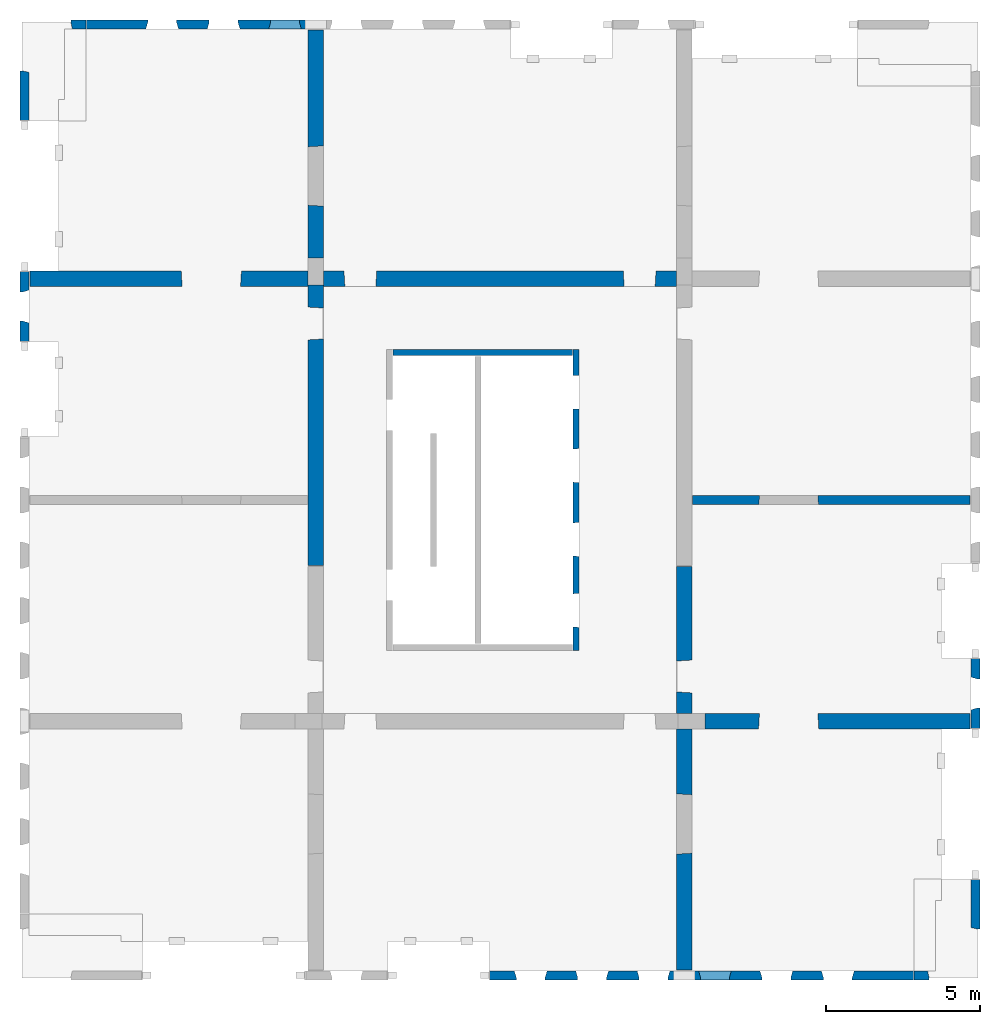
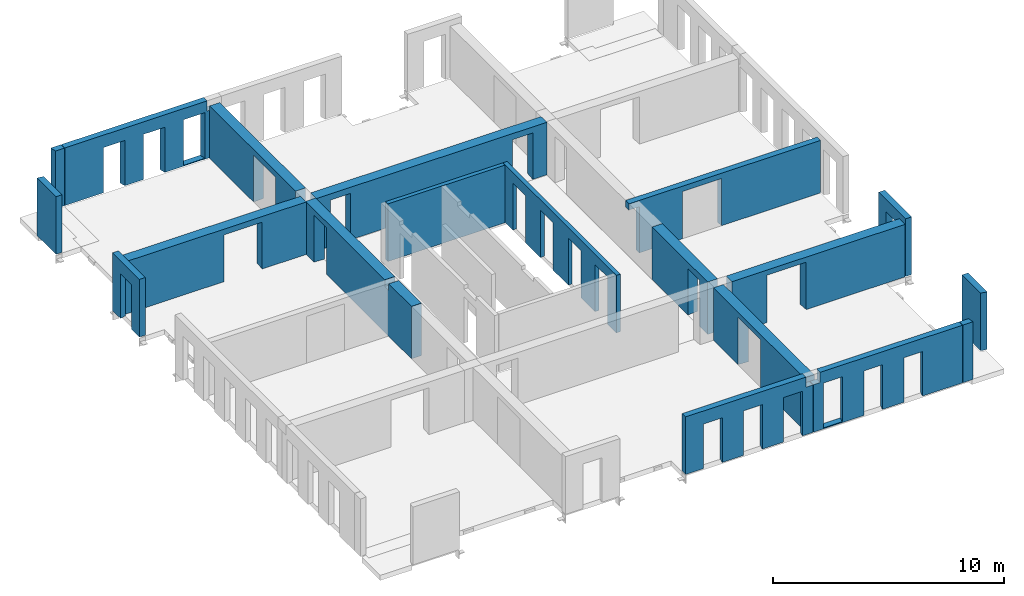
# One storey, part 3 of 4: 19 walls, 33 openings.
"""IFC2X3 building model written with IfcOpenShell, lengths in millimetres."""

import ifcopenshell
import ifcopenshell.guid

model = None  # the IFC model being written
_history = None  # IfcOwnerHistory: only IFC2X3 demands one
_inside = {}  # id of a spatial element -> (the spatial element, [elements in it])
_under = {}  # id of a project, library or spatial element -> (it, [spatial elements below it])
_declared = {}  # id of a project -> (the project, [libraries it declares])
_typed = {}  # id of a type object -> (the type object, [elements of that type])
_made_of = {}  # id of a material, layer set ... -> (it, [elements and type objects made of it])


def new_model(schema):
    """Start an empty IFC model of exactly this schema.

    Asked for "IFC4X3", IfcOpenShell would pick the latest addendum, in which some entities
    have other attributes; the version numbers below select the first issue.
    IFC2X3 requires an IfcOwnerHistory on every rooted entity: one is made here for all.
    """
    global model, _history
    if schema == "IFC4X3":
        model = ifcopenshell.file(schema_version=(4, 3, 0, 0))
    else:
        model = ifcopenshell.file(schema=schema)
    _inside.clear()
    _under.clear()
    _declared.clear()
    _typed.clear()
    _made_of.clear()
    _history = None
    if model.schema == "IFC2X3":
        org = make("IfcOrganization", Name="unknown")
        user = make(
            "IfcPersonAndOrganization",
            ThePerson=make("IfcPerson", FamilyName="unknown"),
            TheOrganization=org,
        )
        app = make(
            "IfcApplication",
            ApplicationDeveloper=org,
            Version="unknown",
            ApplicationFullName="unknown",
            ApplicationIdentifier="unknown",
        )
        _history = make(
            "IfcOwnerHistory",
            OwningUser=user,
            OwningApplication=app,
            ChangeAction="ADDED",
            CreationDate=0,
        )
    return model


def make(cls, **values):
    """One entity of the class cls with the attributes given. An attribute that is None is left unset."""
    return model.create_entity(
        cls, **{name: value for name, value in values.items() if value is not None}
    )


def entity(cls, *values):
    """Any entity or typed value of the class cls, its attributes in the order of the schema. None: left unset."""
    e = model.create_entity(cls)
    for i, value in enumerate(values):
        if value is not None:
            e[i] = value
    return e


def rooted(cls, **values):
    """An entity with a GlobalId (a new one), such as an element, a storey or a relation."""
    return make(cls, GlobalId=ifcopenshell.guid.new(), OwnerHistory=_history, **values)


def si_unit(unit_type, name, prefix=None):
    """IfcSIUnit, for example si_unit("LENGTHUNIT", "METRE", prefix="MILLI")."""
    return make("IfcSIUnit", UnitType=unit_type, Prefix=prefix, Name=name)


def converted_unit(unit_type, name, factor, base, dimensions=None, offset=None):
    """IfcConversionBasedUnit, such as the inch: factor (a typed value) times the base unit."""
    return make(
        "IfcConversionBasedUnit"
        if offset is None
        else "IfcConversionBasedUnitWithOffset",
        ConversionOffset=offset,
        Dimensions=None
        if dimensions is None
        else entity("IfcDimensionalExponents", *dimensions),
        UnitType=unit_type,
        Name=name,
        ConversionFactor=make(
            "IfcMeasureWithUnit", ValueComponent=factor, UnitComponent=base
        ),
    )


def derived_unit(unit_type, elements):
    """IfcDerivedUnit: a product of units, each with its exponent."""
    return make(
        "IfcDerivedUnit",
        Elements=[
            make("IfcDerivedUnitElement", Unit=unit, Exponent=power)
            for unit, power in elements
        ],
        UnitType=unit_type,
    )


def assignment(units):
    """IfcUnitAssignment: the units of a project."""
    return None if units is None else make("IfcUnitAssignment", Units=units)


def point(xyz):
    """IfcCartesianPoint."""
    return None if xyz is None else make("IfcCartesianPoint", Coordinates=xyz)


def direction(xyz):
    """IfcDirection."""
    return None if xyz is None else make("IfcDirection", DirectionRatios=xyz)


def frame(location, z_axis=None, x_axis=None):
    """IfcAxis2Placement3D, a coordinate frame: its origin and axes. An axis left out is left unset."""
    return make(
        "IfcAxis2Placement3D",
        Location=point(location),
        Axis=direction(z_axis),
        RefDirection=direction(x_axis),
    )


def frame_2d(location, x_axis=None):
    """IfcAxis2Placement2D, a coordinate frame in the plane: its origin and x axis."""
    return make(
        "IfcAxis2Placement2D", Location=point(location), RefDirection=direction(x_axis)
    )


def origin():
    """The frame at (0, 0, 0) with its axes left unset."""
    return frame((0.0, 0.0, 0.0))


def origin_2d_with_axis():
    """The frame at (0, 0) in the plane with the x axis (1, 0) written out."""
    return frame_2d((0.0, 0.0), x_axis=(1.0, 0.0))


def place(relative_to, where):
    """IfcLocalPlacement: puts the frame where relative to a parent placement (None: the world)."""
    return make(
        "IfcLocalPlacement", PlacementRelTo=relative_to, RelativePlacement=where
    )


def context(
    kind, dimensions, precision=None, world=None, true_north=None, identifier=None
):
    """IfcGeometricRepresentationContext, for example the 3D "Model" context."""
    return make(
        "IfcGeometricRepresentationContext",
        ContextIdentifier=identifier,
        ContextType=kind,
        CoordinateSpaceDimension=dimensions,
        Precision=precision,
        WorldCoordinateSystem=world,
        TrueNorth=true_north,
    )


def subcontext(parent, identifier, kind, view, scale=None):
    """IfcGeometricRepresentationSubContext, for example "Body" below "Model"."""
    return make(
        "IfcGeometricRepresentationSubContext",
        ContextIdentifier=identifier,
        ContextType=kind,
        ParentContext=parent,
        TargetScale=scale,
        TargetView=view,
    )


def project(units=None, contexts=None):
    """IfcProject with its units and contexts."""
    return rooted(
        "IfcProject",
        Name="project",
        RepresentationContexts=contexts,
        UnitsInContext=assignment(units),
    )


def spatial(cls, under=None, at=None, **own):
    """A site, building, storey or space (cls), placed at a placement, below another one or the project."""
    s = rooted(cls, ObjectPlacement=at, **own)
    if under is not None:
        _under.setdefault(under.id(), (under, []))[1].append(s)
    return s


def profile(cls, at=None, kind="AREA", **sizes):
    """A parametric profile (cls). Its sizes go by their IFC names, for example OverallWidth=200.0."""
    return make(cls, ProfileType=kind, Position=at, **sizes)


def rectangle(**sizes):
    """IfcRectangleProfileDef."""
    return profile("IfcRectangleProfileDef", **sizes)


def extrude(swept, where, along, depth):
    """IfcExtrudedAreaSolid: the profile swept, set in the frame where, extruded along a direction by depth."""
    return make(
        "IfcExtrudedAreaSolid",
        SweptArea=swept,
        Position=where,
        ExtrudedDirection=direction(along),
        Depth=depth,
    )


def faces_of(points, faces, orient=None, outer=None):
    """IfcFace entities. A face is a list of loops; a loop is a list of indices into points, from 0.

    orient and outer hold one flag for each loop. By default every Orientation is true, the
    first loop of a face is its IfcFaceOuterBound and the others are IfcFaceBound.
    """
    made = []
    for i, loops in enumerate(faces):
        bounds = []
        for j, loop in enumerate(loops):
            is_outer = j == 0 if outer is None else outer[i][j]
            bounds.append(
                make(
                    "IfcFaceOuterBound" if is_outer else "IfcFaceBound",
                    Bound=make("IfcPolyLoop", Polygon=[points[k] for k in loop]),
                    Orientation=True if orient is None else orient[i][j],
                )
            )
        made.append(make("IfcFace", Bounds=bounds))
    return made


def faceted_brep(points, faces, orient=None, outer=None, voids=None):
    """IfcFacetedBrep: a solid bounded by flat faces; with voids (closed shells), ...WithVoids."""
    shared = [point(p) for p in points]
    hull = make("IfcClosedShell", CfsFaces=faces_of(shared, faces, orient, outer))
    if voids is None:
        return make("IfcFacetedBrep", Outer=hull)
    return make(
        "IfcFacetedBrepWithVoids",
        Outer=hull,
        Voids=[
            make(cls, CfsFaces=faces_of(shared, fs, o, b)) for cls, fs, o, b in voids
        ],
    )


def shape(context_of_items, identifier, shape_type, items):
    """IfcShapeRepresentation: the items that make up one representation, for example the "Body"."""
    return make(
        "IfcShapeRepresentation",
        ContextOfItems=context_of_items,
        RepresentationIdentifier=identifier,
        RepresentationType=shape_type,
        Items=items,
    )


def material(Name=None, Category=None):
    """IfcMaterial."""
    return make("IfcMaterial", Name=Name, Category=Category)


def layer(
    of_material, thickness, ventilated=None, Name=None, Category=None, Priority=None
):
    """IfcMaterialLayer: one layer of a wall or slab, of a material (None: an air gap)."""
    return make(
        "IfcMaterialLayer",
        Material=of_material,
        LayerThickness=thickness,
        IsVentilated=ventilated,
        Name=Name,
        Category=Category,
        Priority=Priority,
    )


def layer_set(layers, Name=None):
    """IfcMaterialLayerSet."""
    return make("IfcMaterialLayerSet", MaterialLayers=layers, LayerSetName=Name)


def layer_usage(for_layer_set, set_direction, sense, offset, extent=None):
    """IfcMaterialLayerSetUsage: how a layer set lies in its element."""
    return make(
        "IfcMaterialLayerSetUsage",
        ForLayerSet=for_layer_set,
        LayerSetDirection=set_direction,
        DirectionSense=sense,
        OffsetFromReferenceLine=offset,
        ReferenceExtent=extent,
    )


def made_of(thing, what):
    """Note that an element or type object is made of a material, layer set ...; save() writes the relation."""
    if what is not None:
        _made_of.setdefault(what.id(), (what, []))[1].append(thing)
    return thing


def type_object(cls, material=None, **own):
    """A type object (cls), such as IfcWallType, which elements share."""
    return made_of(rooted(cls, **own), material)


def element(
    cls,
    number,
    at=None,
    inside=None,
    cuts=None,
    type_object=None,
    material=None,
    context=None,
    identifier="Body",
    shape_type=None,
    held_by="IfcProductDefinitionShape",
    body=None,
    shapes=None,
    **own,
):
    """One element of the class cls, such as IfcWall. Its Tag is "e" and its number.

    at: its placement. inside: the storey or other place that contains it. cuts: it is an
    opening in that element (IfcRelVoidsElement). A single representation is given by context,
    identifier, shape_type and body (its items); several are given by shapes. held_by: the class
    of the entity that holds the representations. save() writes the other relations.
    """
    e = rooted(cls, Tag="e%d" % number, ObjectPlacement=at, **own)
    if body is not None:
        shapes = [shape(context, identifier, shape_type, body)]
    if shapes is not None:
        e.Representation = make(held_by, Representations=shapes)
    if inside is not None:
        _inside.setdefault(inside.id(), (inside, []))[1].append(e)
    if cuts is not None:
        rooted(
            "IfcRelVoidsElement", RelatingBuildingElement=cuts, RelatedOpeningElement=e
        )
    if type_object is not None:
        _typed.setdefault(type_object.id(), (type_object, []))[1].append(e)
    return made_of(e, material)


def aggregate(whole, parts):
    """IfcRelAggregates: a whole, such as a stair, and the parts it consists of."""
    return rooted("IfcRelAggregates", RelatingObject=whole, RelatedObjects=parts)


def save(model, path):
    """Write the relations noted so far, then the file.

    IfcRelAggregates (storeys below a building ...), IfcRelContainedInSpatialStructure (elements
    in a storey), IfcRelDefinesByType, IfcRelAssociatesMaterial and IfcRelDeclares: one each for
    every whole, place, type object, material and project.
    """
    for whole, parts in _under.values():
        aggregate(whole, parts)
    for where, things in _inside.values():
        rooted(
            "IfcRelContainedInSpatialStructure",
            RelatedElements=things,
            RelatingStructure=where,
        )
    for kind, things in _typed.values():
        rooted("IfcRelDefinesByType", RelatedObjects=things, RelatingType=kind)
    for what, things in _made_of.values():
        rooted("IfcRelAssociatesMaterial", RelatedObjects=things, RelatingMaterial=what)
    for by, libraries in _declared.values():
        rooted("IfcRelDeclares", RelatingContext=by, RelatedDefinitions=libraries)
    model.write(path)


model = new_model("IFC2X3")

# Units and contexts
model_context = context("Model", 3, precision=0.01, world=origin(), true_north=direction((6.12303176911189e-17, 1.0)))
body_context = subcontext(model_context, "Body", "Model", "MODEL_VIEW")
ifc_project = project(units=[si_unit("LENGTHUNIT", "METRE", prefix="MILLI"), si_unit("AREAUNIT", "SQUARE_METRE"), si_unit("VOLUMEUNIT", "CUBIC_METRE"), converted_unit("PLANEANGLEUNIT", "DEGREE", entity("IfcRatioMeasure", 0.0174532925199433), si_unit("PLANEANGLEUNIT", "RADIAN"), dimensions=[0, 0, 0, 0, 0, 0, 0]), si_unit("MASSUNIT", "GRAM", prefix="KILO"), derived_unit("MASSDENSITYUNIT", [(si_unit("MASSUNIT", "GRAM", prefix="KILO"), 1), (si_unit("LENGTHUNIT", "METRE"), -3)]), si_unit("TIMEUNIT", "SECOND"), si_unit("FREQUENCYUNIT", "HERTZ"), si_unit("THERMODYNAMICTEMPERATUREUNIT", "DEGREE_CELSIUS"), derived_unit("THERMALTRANSMITTANCEUNIT", [(si_unit("MASSUNIT", "GRAM", prefix="KILO"), 1), (si_unit("THERMODYNAMICTEMPERATUREUNIT", "KELVIN"), -1), (si_unit("TIMEUNIT", "SECOND"), -3)]), derived_unit("VOLUMETRICFLOWRATEUNIT", [(si_unit("LENGTHUNIT", "METRE"), 3), (si_unit("TIMEUNIT", "SECOND"), -1)]), si_unit("ELECTRICCURRENTUNIT", "AMPERE"), si_unit("ELECTRICVOLTAGEUNIT", "VOLT"), si_unit("POWERUNIT", "WATT"), si_unit("FORCEUNIT", "NEWTON", prefix="KILO"), si_unit("ILLUMINANCEUNIT", "LUX"), si_unit("LUMINOUSFLUXUNIT", "LUMEN"), si_unit("LUMINOUSINTENSITYUNIT", "CANDELA"), derived_unit("USERDEFINED", [(si_unit("MASSUNIT", "GRAM", prefix="KILO"), -1), (si_unit("LENGTHUNIT", "METRE"), -2), (si_unit("TIMEUNIT", "SECOND"), 3), (si_unit("LUMINOUSFLUXUNIT", "LUMEN"), 1)]), derived_unit("LINEARVELOCITYUNIT", [(si_unit("LENGTHUNIT", "METRE"), 1), (si_unit("TIMEUNIT", "SECOND"), -1)]), si_unit("PRESSUREUNIT", "PASCAL"), derived_unit("USERDEFINED", [(si_unit("LENGTHUNIT", "METRE"), -2), (si_unit("MASSUNIT", "GRAM", prefix="KILO"), 1), (si_unit("TIMEUNIT", "SECOND"), -2)])], contexts=[model_context])

# Site, building, storey
site_placement = place(None, origin())
site = spatial("IfcSite", under=ifc_project, at=site_placement, Name="Default", CompositionType="ELEMENT")
building_placement = place(site_placement, origin())
building = spatial("IfcBuilding", under=site, at=building_placement, Name="niet gebruiken", CompositionType="ELEMENT")
storey_placement = place(building_placement, frame((0.0, 0.0, 60840.0)))
storey = spatial("IfcBuildingStorey", under=building, at=storey_placement, Name="19 negentiende verdieping", CompositionType="ELEMENT", Elevation=60840.0)

# Wall, openings
ifc_material = material(Name="NLRS_f2_beton prefab")
ifc_layer_1 = layer(ifc_material, 200.0)
ifc_layer_set_1 = layer_set([ifc_layer_1], Name="Basic Wall:NLRS_22.21_WA_beton prefab d=200_gen")
ifc_layer_usage_1 = layer_usage(ifc_layer_set_1, "AXIS2", "NEGATIVE", 100.0)
wall_type_1 = type_object("IfcWallType", Name="Basic Wall:NLRS_22.21_WA_beton prefab d=200_gen", PredefinedType="STANDARD", material=ifc_layer_set_1)
wall_1_placement = place(storey_placement, frame((144230.0, 22400.0, -50.0), z_axis=(0.0, 0.0, 1.0), x_axis=(0.0, -1.0, 0.0)))
wall_1 = element("IfcWallStandardCase", 1, at=wall_1_placement, inside=storey, type_object=wall_type_1, material=ifc_layer_usage_1, Name="Basic Wall:NLRS_22.21_WA_beton prefab d=200_gen", ObjectType="Basic Wall:NLRS_22.21_WA_beton prefab d=200_gen", context=body_context, shape_type="SweptSolid", body=[
    extrude(rectangle(XDim=9800.0, YDim=199.999999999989, at=frame_2d((4900.0, -3.69482222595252e-13), x_axis=(-1.0, 0.0))), origin(), (0.0, 0.0, 1.0), 3040.0),
])
opening_1_placement = place(wall_1_placement, frame((9047.0, -100.0, 0.0)))
element("IfcOpeningElement", 2, at=opening_1_placement, cuts=wall_1, Name="Basic Wall:NLRS_22.21_WA_beton prefab d=200_gen", ObjectType="Opening", context=body_context, shape_type="Brep", body=[
    faceted_brep([(-1104.0, 200.0, 2502.0), (-1104.0, 200.0, 0.0), (-1092.0, 0.0, 0.0), (-1092.0, 0.0, 2490.0), (0.0, 200.0, 0.0), (-12.0, 0.0, 0.0), (-12.0, 0.0, 2490.0), (0.0, 200.0, 2502.0)], [[[0, 1, 2, 3]], [[1, 4, 5, 2]], [[6, 3, 2, 5]], [[7, 4, 1, 0]], [[7, 0, 3, 6]], [[4, 7, 6, 5]]]),
])
opening_2_placement = place(wall_1_placement, frame((6737.0, -100.0, 0.0)))
element("IfcOpeningElement", 3, at=opening_2_placement, cuts=wall_1, Name="Basic Wall:NLRS_22.21_WA_beton prefab d=200_gen", ObjectType="Opening", context=body_context, shape_type="Brep", body=[
    faceted_brep([(-1104.0, 200.0, 2502.0), (-1104.0, 200.0, 0.0), (-1092.0, 0.0, 0.0), (-1092.0, 0.0, 2490.0), (0.0, 200.0, 0.0), (-12.0, 0.0, 0.0), (-12.0, 0.0, 2490.0), (0.0, 200.0, 2502.0)], [[[0, 1, 2, 3]], [[1, 4, 5, 2]], [[6, 3, 2, 5]], [[7, 4, 1, 0]], [[7, 0, 3, 6]], [[4, 7, 6, 5]]]),
])
opening_3_placement = place(wall_1_placement, frame((4332.0, -100.0, 0.0)))
element("IfcOpeningElement", 4, at=opening_3_placement, cuts=wall_1, Name="Basic Wall:NLRS_22.21_WA_beton prefab d=200_gen", ObjectType="Opening", context=body_context, shape_type="Brep", body=[
    faceted_brep([(-1104.0, 200.0, 2502.0), (-1104.0, 200.0, 0.0), (-1092.0, 0.0, 0.0), (-1092.0, 0.0, 2490.0), (0.0, 200.0, 0.0), (-12.0, 0.0, 0.0), (-12.0, 0.0, 2490.0), (0.0, 200.0, 2502.0)], [[[0, 1, 2, 3]], [[1, 4, 5, 2]], [[6, 3, 2, 5]], [[7, 4, 1, 0]], [[7, 0, 3, 6]], [[4, 7, 6, 5]]]),
])
opening_4_placement = place(wall_1_placement, frame((1942.0, -100.0, 0.0)))
element("IfcOpeningElement", 5, at=opening_4_placement, cuts=wall_1, Name="Basic Wall:NLRS_22.21_WA_beton prefab d=200_gen", ObjectType="Opening", context=body_context, shape_type="Brep", body=[
    faceted_brep([(-1104.0, 200.0, 2502.0), (-1104.0, 200.0, 0.0), (-1092.0, 0.0, 0.0), (-1092.0, 0.0, 2490.0), (0.0, 200.0, 0.0), (-12.0, 0.0, 0.0), (-12.0, 0.0, 2490.0), (0.0, 200.0, 2502.0)], [[[0, 1, 2, 3]], [[1, 4, 5, 2]], [[6, 3, 2, 5]], [[7, 4, 1, 0]], [[7, 0, 3, 6]], [[4, 7, 6, 5]]]),
])

# Wall
ifc_layer_usage_2 = layer_usage(ifc_layer_set_1, "AXIS2", "NEGATIVE", 100.0)
wall_2_placement = place(storey_placement, frame((138270.0, 22300.0, -50.0)))
element("IfcWallStandardCase", 6, at=wall_2_placement, inside=storey, type_object=wall_type_1, material=ifc_layer_usage_2, Name="Basic Wall:NLRS_22.21_WA_beton prefab d=200_gen", ObjectType="Basic Wall:NLRS_22.21_WA_beton prefab d=200_gen", context=body_context, shape_type="SweptSolid", body=[
    extrude(rectangle(XDim=5839.99999999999, YDim=199.999999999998, at=frame_2d((2919.99999999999, -7.60280727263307e-13), x_axis=(-1.0, 0.0))), origin(), (0.0, 0.0, 1.0), 3040.0),
])

# Wall, openings
ifc_layer_2 = layer(ifc_material, 300.0)
ifc_layer_set_2 = layer_set([ifc_layer_2], Name="Basic Wall:NLRS_22.21_WA_beton prefab d=300_gen")
ifc_layer_usage_3 = layer_usage(ifc_layer_set_2, "AXIS2", "NEGATIVE", 150.0)
wall_type_2 = type_object("IfcWallType", Name="Basic Wall:NLRS_22.21_WA_beton prefab d=300_gen", PredefinedType="STANDARD", material=ifc_layer_set_2)
wall_3_placement = place(storey_placement, frame((157060.0, 17500.0, -70.0), z_axis=(0.0, 0.0, 1.0), x_axis=(-1.0, 0.0, 0.0)))
wall_3 = element("IfcWallStandardCase", 7, at=wall_3_placement, inside=storey, type_object=wall_type_2, material=ifc_layer_usage_3, Name="Basic Wall:NLRS_22.21_WA_beton prefab d=300_gen", ObjectType="Basic Wall:NLRS_22.21_WA_beton prefab d=300_gen", context=body_context, shape_type="SweptSolid", body=[
    extrude(rectangle(XDim=9559.9999999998, YDim=300.000000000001, at=frame_2d((4779.9999999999, -7.53175299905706e-13), x_axis=(-1.0, 0.0))), origin(), (0.0, 0.0, 1.0), 2769.99999999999),
])
opening_5_placement = place(wall_3_placement, frame((6878.0, 150.0, 0.0)))
element("IfcOpeningElement", 8, at=opening_5_placement, cuts=wall_3, Name="Basic Wall:NLRS_22.21_WA_beton prefab d=300_gen", ObjectType="Opening", context=body_context, shape_type="Brep", body=[
    faceted_brep([(-18.0, -300.0, 2470.0), (-1918.0, -300.0, 2470.0), (-1918.0, -300.0, 0.0), (-18.0, -300.0, 0.0), (0.0, 0.0, 2488.0), (0.0, 0.0, 0.0), (-1936.0, 0.0, 0.0), (-1936.0, 0.0, 2488.0)], [[[0, 1, 2, 3]], [[4, 5, 6, 7]], [[4, 7, 1, 0]], [[7, 6, 2, 1]], [[6, 5, 3, 2]], [[5, 4, 0, 3]]]),
])
opening_6_placement = place(wall_3_placement, origin())
element("IfcOpeningElement", 9, at=opening_6_placement, cuts=wall_3, Name="Basic Wall:NLRS_22.21_WA_beton prefab d=300_gen", ObjectType="Opening", context=body_context, shape_type="SweptSolid", body=[
    extrude(rectangle(XDim=2440.0, YDim=520.000000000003, at=frame_2d((8.64019966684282e-12, 0.0), x_axis=(0.0, 1.0))), frame((9300.0, 150.0, 1220.0), z_axis=(0.0, -1.0, 0.0), x_axis=(1.0, 0.0, 0.0)), (0.0, 0.0, 1.0), 300.0),
])

ifc_layer_3 = layer(ifc_material, 500.0)
ifc_layer_set_3 = layer_set([ifc_layer_3], Name="Basic Wall:NLRS_22.21_WA_beton prefab d=500_gen")
ifc_layer_usage_4 = layer_usage(ifc_layer_set_3, "AXIS2", "NEGATIVE", 250.0)
wall_type_3 = type_object("IfcWallType", Name="Basic Wall:NLRS_22.21_WA_beton prefab d=500_gen", PredefinedType="STANDARD", material=ifc_layer_set_3)
wall_4_placement = place(storey_placement, frame((136000.003540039, 24700.0, -70.0)))
wall_4 = element("IfcWallStandardCase", 10, at=wall_4_placement, inside=storey, type_object=wall_type_3, material=ifc_layer_usage_4, Name="Basic Wall:NLRS_22.21_WA_beton prefab d=500_gen", ObjectType="Basic Wall:NLRS_22.21_WA_beton prefab d=500_gen", context=body_context, shape_type="SweptSolid", body=[
    extrude(rectangle(XDim=11499.9964599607, YDim=499.999999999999, at=frame_2d((5749.99822998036, 0.0), x_axis=(-1.0, 0.0))), origin(), (0.0, 0.0, 1.0), 2770.00000000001),
])
opening_7_placement = place(wall_4_placement, frame((669.996459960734, -250.0, 0.0)))
element("IfcOpeningElement", 11, at=opening_7_placement, cuts=wall_4, Name="Basic Wall:NLRS_22.21_WA_beton prefab d=500_gen", ObjectType="Opening", context=body_context, shape_type="Brep", body=[
    faceted_brep([(1066.0, 500.0, 2478.0), (1036.0, 0.0, 2448.0), (1036.0, 0.0, 0.0), (1066.0, 500.0, 0.0), (30.0, 0.0, 0.0), (0.0, 500.0, 0.0), (30.0, 0.0, 2448.0), (0.0, 500.0, 2478.0)], [[[0, 1, 2, 3]], [[3, 2, 4, 5]], [[6, 4, 2, 1]], [[7, 0, 3, 5]], [[7, 6, 1, 0]], [[5, 4, 6, 7]]]),
])
opening_8_placement = place(wall_4_placement, frame((9763.99645996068, -250.0, 0.0)))
element("IfcOpeningElement", 12, at=opening_8_placement, cuts=wall_4, Name="Basic Wall:NLRS_22.21_WA_beton prefab d=500_gen", ObjectType="Opening", context=body_context, shape_type="Brep", body=[
    faceted_brep([(30.0, 0.0, 2448.0), (30.0, 0.0, 0.0), (1036.0, 0.0, 0.0), (1036.0, 0.0, 2448.0), (0.0, 500.0, 2478.0), (1066.0, 500.0, 2478.0), (1066.0, 500.0, 0.0), (0.0, 500.0, 0.0)], [[[0, 1, 2, 3]], [[4, 5, 6, 7]], [[4, 0, 3, 5]], [[5, 3, 2, 6]], [[6, 2, 1, 7]], [[7, 1, 0, 4]]]),
])

# Wall, opening
ifc_layer_usage_5 = layer_usage(ifc_layer_set_3, "AXIS2", "NEGATIVE", 250.0)
wall_5_placement = place(storey_placement, frame((147750.0, 10050.0, -70.0), z_axis=(0.0, 0.0, 1.0), x_axis=(0.0, -1.0, 0.0)))
wall_5 = element("IfcWallStandardCase", 13, at=wall_5_placement, inside=storey, type_object=wall_type_3, material=ifc_layer_usage_5, Name="Basic Wall:NLRS_22.21_WA_beton prefab d=500_gen", ObjectType="Basic Wall:NLRS_22.21_WA_beton prefab d=500_gen", context=body_context, shape_type="SweptSolid", body=[
    extrude(rectangle(XDim=7859.99999999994, YDim=499.99999999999, at=frame_2d((3929.99999999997, 8.5265128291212e-14), x_axis=(-1.0, 0.0))), origin(), (0.0, 0.0, 1.0), 2769.99999999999),
])
opening_9_placement = place(wall_5_placement, frame((4080.0, -250.0, 0.0)))
element("IfcOpeningElement", 14, at=opening_9_placement, cuts=wall_5, Name="Basic Wall:NLRS_22.21_WA_beton prefab d=500_gen", ObjectType="Opening", context=body_context, shape_type="Brep", body=[
    faceted_brep([(-30.0, 500.0, 2470.0), (-30.0, 500.0, 0.0), (-1930.0, 500.0, 0.0), (-1930.0, 500.0, 2470.0), (0.0, 0.0, 2500.0), (-1960.0, 0.0, 2500.0), (-1960.0, 0.0, 0.0), (0.0, 0.0, 0.0)], [[[0, 1, 2, 3]], [[4, 5, 6, 7]], [[4, 0, 3, 5]], [[5, 3, 2, 6]], [[6, 2, 1, 7]], [[7, 1, 0, 4]]]),
])

ifc_layer_usage_6 = layer_usage(ifc_layer_set_3, "AXIS2", "NEGATIVE", 250.0)
wall_6_placement = place(storey_placement, frame((135500.003540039, 24700.0, -70.0), z_axis=(0.0, 0.0, 1.0), x_axis=(-1.0, 0.0, 0.0)))
wall_6 = element("IfcWallStandardCase", 15, at=wall_6_placement, inside=storey, type_object=wall_type_3, material=ifc_layer_usage_6, Name="Basic Wall:NLRS_22.21_WA_beton prefab d=500_gen", ObjectType="Basic Wall:NLRS_22.21_WA_beton prefab d=500_gen", context=body_context, shape_type="SweptSolid", body=[
    extrude(rectangle(XDim=9060.00354003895, YDim=499.999999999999, at=frame_2d((4530.00177001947, 7.24753590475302e-13), x_axis=(-1.0, 0.0))), origin(), (0.0, 0.0, 1.0), 2769.99999999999),
])
opening_10_placement = place(wall_6_placement, frame((4130.00354003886, 250.0, 0.0)))
element("IfcOpeningElement", 16, at=opening_10_placement, cuts=wall_6, Name="Basic Wall:NLRS_22.21_WA_beton prefab d=500_gen", ObjectType="Opening", context=body_context, shape_type="Brep", body=[
    faceted_brep([(-1930.0, 0.0, 2470.0), (-30.0, 0.0, 2470.0), (-30.0, 0.0, 0.0), (-1930.0, 0.0, 0.0), (-1960.0, -500.0, 2500.0), (-1960.0, -500.0, 0.0), (0.0, -500.0, 0.0), (0.0, -500.0, 2500.0)], [[[0, 1, 2, 3]], [[4, 5, 6, 7]], [[4, 7, 1, 0]], [[7, 6, 2, 1]], [[6, 5, 3, 2]], [[5, 4, 0, 3]]]),
])

ifc_layer_usage_7 = layer_usage(ifc_layer_set_3, "AXIS2", "NEGATIVE", 250.0)
wall_7_placement = place(storey_placement, frame((148430.0, 10300.0, -70.0)))
wall_7 = element("IfcWallStandardCase", 17, at=wall_7_placement, inside=storey, type_object=wall_type_3, material=ifc_layer_usage_7, Name="Basic Wall:NLRS_22.21_WA_beton prefab d=500_gen", ObjectType="Basic Wall:NLRS_22.21_WA_beton prefab d=500_gen", context=body_context, shape_type="SweptSolid", body=[
    extrude(rectangle(XDim=8630.00000000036, YDim=499.999999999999, at=frame_2d((4315.00000000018, 2.70006239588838e-13), x_axis=(-1.0, 0.0))), origin(), (0.0, 0.0, 1.0), 2769.99999999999),
])
opening_11_placement = place(wall_7_placement, frame((1740.0, -250.0, 0.0)))
element("IfcOpeningElement", 18, at=opening_11_placement, cuts=wall_7, Name="Basic Wall:NLRS_22.21_WA_beton prefab d=500_gen", ObjectType="Opening", context=body_context, shape_type="Brep", body=[
    faceted_brep([(30.0, 500.0, 2470.0), (1930.0, 500.0, 2470.0), (1930.0, 500.0, 0.0), (30.0, 500.0, 0.0), (0.0, 0.0, 2500.0), (0.0, 0.0, 0.0), (1960.0, 0.0, 0.0), (1960.0, 0.0, 2500.0)], [[[0, 1, 2, 3]], [[4, 5, 6, 7]], [[4, 7, 1, 0]], [[7, 6, 2, 1]], [[6, 5, 3, 2]], [[5, 4, 0, 3]]]),
])

ifc_layer_usage_8 = layer_usage(ifc_layer_set_3, "AXIS2", "NEGATIVE", 250.0)
wall_8_placement = place(storey_placement, frame((135750.0, 25380.0, -70.0), z_axis=(0.0, 0.0, 1.0), x_axis=(0.0, 1.0, 0.0)))
wall_8 = element("IfcWallStandardCase", 19, at=wall_8_placement, inside=storey, type_object=wall_type_3, material=ifc_layer_usage_8, Name="Basic Wall:NLRS_22.21_WA_beton prefab d=500_gen", ObjectType="Basic Wall:NLRS_22.21_WA_beton prefab d=500_gen", context=body_context, shape_type="SweptSolid", body=[
    extrude(rectangle(XDim=7429.99999999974, YDim=499.99999999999, at=frame_2d((3714.99999999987, -3.65218966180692e-12), x_axis=(-1.0, 0.0))), origin(), (0.0, 0.0, 1.0), 2769.99999999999),
])
opening_12_placement = place(wall_8_placement, frame((1690.0, 250.0, 0.0)))
element("IfcOpeningElement", 20, at=opening_12_placement, cuts=wall_8, Name="Basic Wall:NLRS_22.21_WA_beton prefab d=500_gen", ObjectType="Opening", context=body_context, shape_type="Brep", body=[
    faceted_brep([(1930.0, 0.0, 2470.0), (1930.0, 0.0, 0.0), (30.0, 0.0, 0.0), (30.0, 0.0, 2470.0), (1960.0, -500.0, 2500.0), (0.0, -500.0, 2500.0), (0.0, -500.0, 0.0), (1960.0, -500.0, 0.0)], [[[0, 1, 2, 3]], [[4, 5, 6, 7]], [[4, 0, 3, 5]], [[5, 3, 2, 6]], [[6, 2, 1, 7]], [[7, 1, 0, 4]]]),
])

ifc_layer_usage_9 = layer_usage(ifc_layer_set_3, "AXIS2", "NEGATIVE", 250.0)
wall_9_placement = place(storey_placement, frame((147750.0, 15340.0, -70.0), z_axis=(0.0, 0.0, 1.0), x_axis=(0.0, -1.0, 0.0)))
wall_9 = element("IfcWallStandardCase", 21, at=wall_9_placement, inside=storey, type_object=wall_type_3, material=ifc_layer_usage_9, Name="Basic Wall:NLRS_22.21_WA_beton prefab d=500_gen", ObjectType="Basic Wall:NLRS_22.21_WA_beton prefab d=500_gen", context=body_context, shape_type="SweptSolid", body=[
    extrude(rectangle(XDim=4789.99999999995, YDim=499.99999999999, at=frame_2d((2394.99999999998, 0.0), x_axis=(-1.0, 0.0))), origin(), (0.0, 0.0, 1.0), 2770.00000000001),
])
opening_13_placement = place(wall_9_placement, frame((4120.0, -250.0, 0.0)))
element("IfcOpeningElement", 22, at=opening_13_placement, cuts=wall_9, Name="Basic Wall:NLRS_22.21_WA_beton prefab d=500_gen", ObjectType="Opening", context=body_context, shape_type="Brep", body=[
    faceted_brep([(-1066.0, 500.0, 2478.0), (-1066.0, 500.0, 0.0), (-1036.0, 0.0, 0.0), (-1036.0, 0.0, 2448.0), (0.0, 500.0, 0.0), (-30.0, 0.0, 0.0), (-30.0, 0.0, 2448.0), (0.0, 500.0, 2478.0)], [[[0, 1, 2, 3]], [[1, 4, 5, 2]], [[6, 3, 2, 5]], [[7, 4, 1, 0]], [[7, 0, 3, 6]], [[4, 7, 6, 5]]]),
])

# Wall, openings
ifc_layer_usage_10 = layer_usage(ifc_layer_set_3, "AXIS2", "NEGATIVE", 250.0)
wall_10_placement = place(storey_placement, frame((135750.0, 24500.0, -70.0), z_axis=(0.0, 0.0, 1.0), x_axis=(0.0, -1.0, 0.0)))
wall_10 = element("IfcWallStandardCase", 23, at=wall_10_placement, inside=storey, type_object=wall_type_3, material=ifc_layer_usage_10, Name="Basic Wall:NLRS_22.21_WA_beton prefab d=500_gen", ObjectType="Basic Wall:NLRS_22.21_WA_beton prefab d=500_gen", context=body_context, shape_type="SweptSolid", body=[
    extrude(rectangle(XDim=9140.0, YDim=499.99999999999, at=frame_2d((4570.0, 5.6843418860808e-14), x_axis=(-1.0, 0.0))), origin(), (0.0, 0.0, 1.0), 2770.00000000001),
])
opening_14_placement = place(wall_10_placement, frame((1786.0, -250.0, 0.0)))
element("IfcOpeningElement", 24, at=opening_14_placement, cuts=wall_10, Name="Basic Wall:NLRS_22.21_WA_beton prefab d=500_gen", ObjectType="Opening", context=body_context, shape_type="Brep", body=[
    faceted_brep([(-1066.0, 0.0, 2478.0), (-1036.0, 500.0, 2448.0), (-1036.0, 500.0, 0.0), (-1066.0, 0.0, 0.0), (-30.0, 500.0, 0.0), (0.0, 0.0, 0.0), (-30.0, 500.0, 2448.0), (0.0, 0.0, 2478.0)], [[[0, 1, 2, 3]], [[3, 2, 4, 5]], [[6, 4, 2, 1]], [[7, 0, 3, 5]], [[7, 6, 1, 0]], [[5, 4, 6, 7]]]),
])
opening_15_placement = place(wall_10_placement, origin())
element("IfcOpeningElement", 25, at=opening_15_placement, cuts=wall_10, Name="Basic Wall:NLRS_22.21_WA_beton prefab d=500_gen", ObjectType="Opening", context=body_context, shape_type="SweptSolid", body=[
    extrude(rectangle(XDim=349.999999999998, YDim=340.000000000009, at=frame_2d((0.0, -4.33431068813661e-12), x_axis=(0.0, 1.0))), frame((7000.0, 250.0, 2595.0), z_axis=(0.0, -1.0, 0.0), x_axis=(-1.0, 0.0, 0.0)), (0.0, 0.0, 1.0), 500.0),
])

# Wall, opening
ifc_layer_4 = layer(ifc_material, 300.0)
ifc_layer_set_4 = layer_set([ifc_layer_4], Name="Basic Wall:NLRS_21.21_WA_beton prefab d=300/320_gen")
ifc_layer_usage_11 = layer_usage(ifc_layer_set_4, "AXIS2", "NEGATIVE", 150.0)
wall_type_4 = type_object("IfcWallType", Name="Basic Wall:NLRS_21.21_WA_beton prefab d=300/320_gen", PredefinedType="STANDARD", material=ifc_layer_set_4)
wall_11_placement = place(storey_placement, frame((157230.0, 12360.0, -50.0), z_axis=(0.0, 0.0, 1.0), x_axis=(0.0, -1.0, 0.0)))
wall_11 = element("IfcWallStandardCase", 26, at=wall_11_placement, inside=storey, type_object=wall_type_4, material=ifc_layer_usage_11, Name="Basic Wall:NLRS_21.21_WA_beton prefab d=300/320_gen", ObjectType="Basic Wall:NLRS_21.21_WA_beton prefab d=300/320_gen", context=body_context, shape_type="SweptSolid", body=[
    extrude(rectangle(XDim=2320.00000000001, YDim=300.000000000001, at=frame_2d((1160.0, -8.38440428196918e-12), x_axis=(-1.0, 0.0))), origin(), (0.0, 0.0, 1.0), 3040.0),
])
opening_16_placement = place(wall_11_placement, frame((1695.0, -150.0, -20.0)))
element("IfcOpeningElement", 27, at=opening_16_placement, cuts=wall_11, Name="Basic Wall:NLRS_21.21_WA_beton prefab d=300/320_gen", ObjectType="Opening", context=body_context, shape_type="Brep", body=[
    faceted_brep([(-1070.0, 0.0, 2405.0), (-1070.0, 0.0, 0.0), (0.0, 0.0, 0.0), (0.0, 0.0, 2405.0), (-65.0, 219.0, 2370.0), (-1005.0, 219.0, 2370.0), (-65.0, 219.0, 0.0), (-1005.0, 219.0, 0.0), (-1005.0, 300.0, 0.0), (-65.0, 300.0, 0.0), (-1005.0, 300.0, 2370.0), (-65.0, 300.0, 2370.0)], [[[0, 1, 2, 3]], [[3, 4, 5, 0]], [[2, 6, 4, 3]], [[1, 7, 8, 9, 6, 2]], [[0, 5, 7, 1]], [[10, 11, 9, 8]], [[10, 5, 4, 11]], [[11, 4, 6, 9]], [[8, 7, 5, 10]]]),
])

ifc_layer_usage_12 = layer_usage(ifc_layer_set_4, "AXIS2", "NEGATIVE", 150.0)
wall_12_placement = place(storey_placement, frame((126270.0, 22640.0, -50.0), z_axis=(0.0, 0.0, 1.0), x_axis=(0.0, 1.0, 0.0)))
wall_12 = element("IfcWallStandardCase", 28, at=wall_12_placement, inside=storey, type_object=wall_type_4, material=ifc_layer_usage_12, Name="Basic Wall:NLRS_21.21_WA_beton prefab d=300/320_gen", ObjectType="Basic Wall:NLRS_21.21_WA_beton prefab d=300/320_gen", context=body_context, shape_type="SweptSolid", body=[
    extrude(rectangle(XDim=2320.0, YDim=300.000000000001, at=frame_2d((1160.0, -3.60955709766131e-12), x_axis=(-1.0, 0.0))), origin(), (0.0, 0.0, 1.0), 3040.0),
])
opening_17_placement = place(wall_12_placement, frame((625.0, 150.0, -20.0)))
element("IfcOpeningElement", 29, at=opening_17_placement, cuts=wall_12, Name="Basic Wall:NLRS_21.21_WA_beton prefab d=300/320_gen", ObjectType="Opening", context=body_context, shape_type="Brep", body=[
    faceted_brep([(0.0, -300.0, 2405.0), (0.0, -300.0, 0.0), (1070.0, -300.0, 0.0), (1070.0, -300.0, 2405.0), (1005.0, -81.0, 2370.0), (65.0, -81.0, 2370.0), (1005.0, -81.0, 0.0), (65.0, -81.0, 0.0), (65.0, 0.0, 0.0), (1005.0, 0.0, 0.0), (65.0, 0.0, 2370.0), (1005.0, 0.0, 2370.0)], [[[0, 1, 2, 3]], [[3, 4, 5, 0]], [[2, 6, 4, 3]], [[1, 7, 8, 9, 6, 2]], [[0, 5, 7, 1]], [[10, 11, 9, 8]], [[10, 5, 4, 11]], [[11, 4, 6, 9]], [[8, 7, 5, 10]]]),
])

# Wall, openings
ifc_layer_usage_13 = layer_usage(ifc_layer_set_4, "AXIS2", "NEGATIVE", 150.0)
wall_13_placement = place(storey_placement, frame((128290.0, 32980.0, -50.0)))
wall_13 = element("IfcWallStandardCase", 30, at=wall_13_placement, inside=storey, type_object=wall_type_4, material=ifc_layer_usage_13, Name="Basic Wall:NLRS_21.21_WA_beton prefab d=300/320_gen", ObjectType="Basic Wall:NLRS_21.21_WA_beton prefab d=300/320_gen", context=body_context, shape_type="SweptSolid", body=[
    extrude(rectangle(XDim=7449.9999999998, YDim=300.000000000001, at=frame_2d((3724.9999999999, 0.0), x_axis=(-1.0, 0.0))), origin(), (0.0, 0.0, 1.0), 3040.0),
])
opening_18_placement = place(wall_13_placement, frame((3925.0, -150.0, -20.0)))
element("IfcOpeningElement", 31, at=opening_18_placement, cuts=wall_13, Name="Basic Wall:NLRS_21.21_WA_beton prefab d=300/320_gen", ObjectType="Opening", context=body_context, shape_type="Brep", body=[
    faceted_brep([(1070.0, 0.0, 2405.0), (0.0, 0.0, 2405.0), (0.0, 0.0, 0.0), (1070.0, 0.0, 0.0), (1005.0, 219.0, 2370.0), (65.0, 219.0, 2370.0), (65.0, 219.0, 0.0), (65.0, 300.0, 0.0), (1005.0, 300.0, 0.0), (1005.0, 219.0, 0.0), (1005.0, 300.0, 2370.0), (65.0, 300.0, 2370.0)], [[[0, 1, 2, 3]], [[1, 0, 4, 5]], [[2, 1, 5, 6]], [[3, 2, 6, 7, 8, 9]], [[0, 3, 9, 4]], [[10, 8, 7, 11]], [[10, 11, 5, 4]], [[11, 7, 6, 5]], [[8, 10, 4, 9]]]),
])
opening_19_placement = place(wall_13_placement, frame((1925.0, -150.0, -20.0)))
element("IfcOpeningElement", 32, at=opening_19_placement, cuts=wall_13, Name="Basic Wall:NLRS_21.21_WA_beton prefab d=300/320_gen", ObjectType="Opening", context=body_context, shape_type="Brep", body=[
    faceted_brep([(1070.0, 0.0, 2405.0), (0.0, 0.0, 2405.0), (0.0, 0.0, 0.0), (1070.0, 0.0, 0.0), (1005.0, 219.0, 2370.0), (65.0, 219.0, 2370.0), (65.0, 219.0, 0.0), (65.0, 300.0, 0.0), (1005.0, 300.0, 0.0), (1005.0, 219.0, 0.0), (1005.0, 300.0, 2370.0), (65.0, 300.0, 2370.0)], [[[0, 1, 2, 3]], [[1, 0, 4, 5]], [[2, 1, 5, 6]], [[3, 2, 6, 7, 8, 9]], [[0, 3, 9, 4]], [[10, 8, 7, 11]], [[10, 11, 5, 4]], [[11, 7, 6, 5]], [[8, 10, 4, 9]]]),
])
opening_20_placement = place(wall_13_placement, frame((5925.0, -150.0, 50.0)))
element("IfcOpeningElement", 33, at=opening_20_placement, cuts=wall_13, Name="Basic Wall:NLRS_21.21_WA_beton prefab d=300/320_gen", ObjectType="Opening", context=body_context, shape_type="Brep", body=[
    faceted_brep([(1070.0, 0.0, 2405.0), (0.0, 0.0, 2405.0), (0.0, 0.0, 0.0), (1070.0, 0.0, 0.0), (1005.0, 219.0, 2370.0), (65.0, 219.0, 2370.0), (65.0, 219.0, 0.0), (65.0, 300.0, 0.0), (1005.0, 300.0, 0.0), (1005.0, 219.0, 0.0), (1005.0, 300.0, 2370.0), (65.0, 300.0, 2370.0)], [[[0, 1, 2, 3]], [[1, 0, 4, 5]], [[2, 1, 5, 6]], [[3, 2, 6, 7, 8, 9]], [[0, 3, 9, 4]], [[10, 8, 7, 11]], [[10, 11, 5, 4]], [[11, 7, 6, 5]], [[8, 10, 4, 9]]]),
])
opening_21_placement = place(wall_13_placement, origin())
element("IfcOpeningElement", 34, at=opening_21_placement, cuts=wall_13, Name="Basic Wall:NLRS_21.21_WA_beton prefab d=300/320_gen", ObjectType="Opening", context=body_context, shape_type="SweptSolid", body=[
    extrude(rectangle(XDim=534.999999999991, YDim=344.999999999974, at=frame_2d((-4.32009983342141e-12, 0.0), x_axis=(1.0, 0.0))), frame((7277.49999999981, 150.0, 2772.50000000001), z_axis=(0.0, -1.0, 0.0), x_axis=(0.0, 0.0, 1.0)), (0.0, 0.0, 1.0), 300.0),
])

# Wall, opening
ifc_layer_usage_14 = layer_usage(ifc_layer_set_4, "AXIS2", "NEGATIVE", 150.0)
wall_14_placement = place(storey_placement, frame((127780.0, 32980.0, -50.0)))
wall_14 = element("IfcWallStandardCase", 35, at=wall_14_placement, inside=storey, type_object=wall_type_4, material=ifc_layer_usage_14, Name="Basic Wall:NLRS_21.21_WA_beton prefab d=300/320_gen", ObjectType="Basic Wall:NLRS_21.21_WA_beton prefab d=300/320_gen", context=body_context, shape_type="SweptSolid", body=[
    extrude(rectangle(XDim=489.999999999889, YDim=300.000000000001, at=frame_2d((244.999999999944, -6.67910171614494e-13), x_axis=(-1.0, 0.0))), origin(), (0.0, 0.0, 1.0), 3040.0),
])
opening_22_placement = place(wall_14_placement, frame((0.0, -250.0, 0.0)))
element("IfcOpeningElement", 36, at=opening_22_placement, cuts=wall_14, Name="Basic Wall:NLRS_21.21_WA_beton prefab d=300/320_gen", ObjectType="Opening", context=body_context, shape_type="Brep", body=[
    faceted_brep([(0.0, 0.0, 3040.0), (65.0, 0.0, 3040.0), (0.0, 319.0, 3040.0), (0.0, 0.0, 0.0), (0.0, 319.0, 0.0), (65.0, 0.0, 0.0)], [[[0, 1, 2]], [[3, 4, 5]], [[1, 0, 3, 5]], [[0, 2, 4, 3]], [[2, 1, 5, 4]]]),
])

ifc_layer_usage_15 = layer_usage(ifc_layer_set_4, "AXIS2", "NEGATIVE", 150.0)
wall_15_placement = place(storey_placement, frame((126270.0, 29840.0, -50.0), z_axis=(0.0, 0.0, 1.0), x_axis=(0.0, 1.0, 0.0)))
wall_15 = element("IfcWallStandardCase", 37, at=wall_15_placement, inside=storey, type_object=wall_type_4, material=ifc_layer_usage_15, Name="Basic Wall:NLRS_21.21_WA_beton prefab d=300/320_gen", ObjectType="Basic Wall:NLRS_21.21_WA_beton prefab d=300/320_gen", context=body_context, shape_type="SweptSolid", body=[
    extrude(rectangle(XDim=1629.99999999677, YDim=300.000000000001, at=frame_2d((814.999999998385, 8.95283847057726e-13), x_axis=(-1.0, 0.0))), origin(), (0.0, 0.0, 1.0), 3040.0),
])
opening_23_placement = place(wall_15_placement, frame((1565.0, 69.0, 0.0)))
element("IfcOpeningElement", 38, at=opening_23_placement, cuts=wall_15, Name="Basic Wall:NLRS_21.21_WA_beton prefab d=300/320_gen", ObjectType="Opening", context=body_context, shape_type="Brep", body=[
    faceted_brep([(65.0, -319.0, 3040.0), (65.0, 0.0, 3040.0), (0.0, -319.0, 3040.0), (65.0, -319.0, 0.0), (0.0, -319.0, 0.0), (65.0, 0.0, 0.0)], [[[0, 1, 2]], [[3, 4, 5]], [[2, 4, 3, 0]], [[0, 3, 5, 1]], [[1, 5, 4, 2]]]),
])

ifc_layer_usage_16 = layer_usage(ifc_layer_set_4, "AXIS2", "NEGATIVE", 150.0)
wall_16_placement = place(storey_placement, frame((155720.0, 2020.0, -50.0), z_axis=(0.0, 0.0, 1.0), x_axis=(-1.0, 0.0, 0.0)))
wall_16 = element("IfcWallStandardCase", 39, at=wall_16_placement, inside=storey, type_object=wall_type_4, material=ifc_layer_usage_16, Name="Basic Wall:NLRS_21.21_WA_beton prefab d=300/320_gen", ObjectType="Basic Wall:NLRS_21.21_WA_beton prefab d=300/320_gen", context=body_context, shape_type="SweptSolid", body=[
    extrude(rectangle(XDim=489.999999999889, YDim=300.0, at=frame_2d((244.999999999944, 4.2632564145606e-14), x_axis=(-1.0, 0.0))), origin(), (0.0, 0.0, 1.0), 3040.0),
])
opening_24_placement = place(wall_16_placement, frame((65.0, 69.0, 0.0)))
element("IfcOpeningElement", 40, at=opening_24_placement, cuts=wall_16, Name="Basic Wall:NLRS_21.21_WA_beton prefab d=300/320_gen", ObjectType="Opening", context=body_context, shape_type="Brep", body=[
    faceted_brep([(-65.0, -319.0, 3040.0), (0.0, -319.0, 3040.0), (-65.0, 0.0, 3040.0), (-65.0, -319.0, 0.0), (-65.0, 0.0, 0.0), (0.0, -319.0, 0.0)], [[[0, 1, 2]], [[3, 4, 5]], [[1, 0, 3, 5]], [[0, 2, 4, 3]], [[2, 1, 5, 4]]]),
])

ifc_layer_usage_17 = layer_usage(ifc_layer_set_4, "AXIS2", "NEGATIVE", 150.0)
wall_17_placement = place(storey_placement, frame((157230.0, 5160.0, -50.0), z_axis=(0.0, 0.0, 1.0), x_axis=(0.0, -1.0, 0.0)))
wall_17 = element("IfcWallStandardCase", 41, at=wall_17_placement, inside=storey, type_object=wall_type_4, material=ifc_layer_usage_17, Name="Basic Wall:NLRS_21.21_WA_beton prefab d=300/320_gen", ObjectType="Basic Wall:NLRS_21.21_WA_beton prefab d=300/320_gen", context=body_context, shape_type="SweptSolid", body=[
    extrude(rectangle(XDim=1629.99999999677, YDim=300.000000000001, at=frame_2d((814.999999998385, 4.76063632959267e-12), x_axis=(-1.0, 0.0))), origin(), (0.0, 0.0, 1.0), 3040.0),
])
opening_25_placement = place(wall_17_placement, frame((1630.0, -250.0, 0.0)))
element("IfcOpeningElement", 42, at=opening_25_placement, cuts=wall_17, Name="Basic Wall:NLRS_21.21_WA_beton prefab d=300/320_gen", ObjectType="Opening", context=body_context, shape_type="Brep", body=[
    faceted_brep([(0.0, 0.0, 3040.0), (0.0, 319.0, 3040.0), (-65.0, 0.0, 3040.0), (0.0, 0.0, 0.0), (-65.0, 0.0, 0.0), (0.0, 319.0, 0.0)], [[[0, 1, 2]], [[3, 4, 5]], [[2, 4, 3, 0]], [[0, 3, 5, 1]], [[1, 5, 4, 2]]]),
])

# Wall, openings
ifc_layer_usage_18 = layer_usage(ifc_layer_set_4, "AXIS2", "NEGATIVE", 150.0)
wall_18_placement = place(storey_placement, frame((155210.0, 2020.0, -50.0), z_axis=(0.0, 0.0, 1.0), x_axis=(-1.0, 0.0, 0.0)))
wall_18 = element("IfcWallStandardCase", 43, at=wall_18_placement, inside=storey, type_object=wall_type_4, material=ifc_layer_usage_18, Name="Basic Wall:NLRS_21.21_WA_beton prefab d=300/320_gen", ObjectType="Basic Wall:NLRS_21.21_WA_beton prefab d=300/320_gen", context=body_context, shape_type="SweptSolid", body=[
    extrude(rectangle(XDim=7449.99999999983, YDim=300.0, at=frame_2d((3724.99999999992, 5.6843418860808e-14), x_axis=(-1.0, 0.0))), origin(), (0.0, 0.0, 1.0), 3040.0),
])
opening_26_placement = place(wall_18_placement, frame((4995.0, 150.0, -20.0)))
element("IfcOpeningElement", 44, at=opening_26_placement, cuts=wall_18, Name="Basic Wall:NLRS_21.21_WA_beton prefab d=300/320_gen", ObjectType="Opening", context=body_context, shape_type="Brep", body=[
    faceted_brep([(0.0, -300.0, 2405.0), (-1070.0, -300.0, 2405.0), (-1070.0, -300.0, 0.0), (0.0, -300.0, 0.0), (-65.0, -81.0, 2370.0), (-1005.0, -81.0, 2370.0), (-1005.0, -81.0, 0.0), (-1005.0, 0.0, 0.0), (-65.0, 0.0, 0.0), (-65.0, -81.0, 0.0), (-65.0, 0.0, 2370.0), (-1005.0, 0.0, 2370.0)], [[[0, 1, 2, 3]], [[1, 0, 4, 5]], [[2, 1, 5, 6]], [[3, 2, 6, 7, 8, 9]], [[0, 3, 9, 4]], [[10, 8, 7, 11]], [[10, 11, 5, 4]], [[11, 7, 6, 5]], [[8, 10, 4, 9]]]),
])
opening_27_placement = place(wall_18_placement, frame((2995.0, 150.0, -20.0)))
element("IfcOpeningElement", 45, at=opening_27_placement, cuts=wall_18, Name="Basic Wall:NLRS_21.21_WA_beton prefab d=300/320_gen", ObjectType="Opening", context=body_context, shape_type="Brep", body=[
    faceted_brep([(0.0, -300.0, 2405.0), (-1070.0, -300.0, 2405.0), (-1070.0, -300.0, 0.0), (0.0, -300.0, 0.0), (-65.0, -81.0, 2370.0), (-1005.0, -81.0, 2370.0), (-1005.0, -81.0, 0.0), (-1005.0, 0.0, 0.0), (-65.0, 0.0, 0.0), (-65.0, -81.0, 0.0), (-65.0, 0.0, 2370.0), (-1005.0, 0.0, 2370.0)], [[[0, 1, 2, 3]], [[1, 0, 4, 5]], [[2, 1, 5, 6]], [[3, 2, 6, 7, 8, 9]], [[0, 3, 9, 4]], [[10, 8, 7, 11]], [[10, 11, 5, 4]], [[11, 7, 6, 5]], [[8, 10, 4, 9]]]),
])
opening_28_placement = place(wall_18_placement, frame((6995.0, 150.0, 50.0)))
element("IfcOpeningElement", 46, at=opening_28_placement, cuts=wall_18, Name="Basic Wall:NLRS_21.21_WA_beton prefab d=300/320_gen", ObjectType="Opening", context=body_context, shape_type="Brep", body=[
    faceted_brep([(0.0, -300.0, 2405.0), (-1070.0, -300.0, 2405.0), (-1070.0, -300.0, 0.0), (0.0, -300.0, 0.0), (-65.0, -81.0, 2370.0), (-1005.0, -81.0, 2370.0), (-1005.0, -81.0, 0.0), (-1005.0, 0.0, 0.0), (-65.0, 0.0, 0.0), (-65.0, -81.0, 0.0), (-65.0, 0.0, 2370.0), (-1005.0, 0.0, 2370.0)], [[[0, 1, 2, 3]], [[1, 0, 4, 5]], [[2, 1, 5, 6]], [[3, 2, 6, 7, 8, 9]], [[0, 3, 9, 4]], [[10, 8, 7, 11]], [[10, 11, 5, 4]], [[11, 7, 6, 5]], [[8, 10, 4, 9]]]),
])
opening_29_placement = place(wall_18_placement, origin())
element("IfcOpeningElement", 47, at=opening_29_placement, cuts=wall_18, Name="Basic Wall:NLRS_21.21_WA_beton prefab d=300/320_gen", ObjectType="Opening", context=body_context, shape_type="SweptSolid", body=[
    extrude(rectangle(XDim=535.0, YDim=344.999999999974, at=origin_2d_with_axis()), frame((7277.49999999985, 150.0, 2772.5), z_axis=(0.0, -1.0, 0.0), x_axis=(0.0, 0.0, 1.0)), (0.0, 0.0, 1.0), 300.0),
])

ifc_layer_usage_19 = layer_usage(ifc_layer_set_4, "AXIS2", "NEGATIVE", 150.0)
wall_19_placement = place(storey_placement, frame((147740.0, 2020.0, -50.0), z_axis=(0.0, 0.0, 1.0), x_axis=(-1.0, 0.0, 0.0)))
wall_19 = element("IfcWallStandardCase", 48, at=wall_19_placement, inside=storey, type_object=wall_type_4, material=ifc_layer_usage_19, Name="Basic Wall:NLRS_21.21_WA_beton prefab d=300/320_gen", ObjectType="Basic Wall:NLRS_21.21_WA_beton prefab d=300/320_gen", context=body_context, shape_type="SweptSolid", body=[
    extrude(rectangle(XDim=6350.00000000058, YDim=300.0, at=frame_2d((3175.00000000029, -4.2632564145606e-14), x_axis=(-1.0, 0.0))), origin(), (0.0, 0.0, 1.0), 3040.0),
])
opening_30_placement = place(wall_19_placement, frame((1525.0, 150.0, -20.0)))
element("IfcOpeningElement", 49, at=opening_30_placement, cuts=wall_19, Name="Basic Wall:NLRS_21.21_WA_beton prefab d=300/320_gen", ObjectType="Opening", context=body_context, shape_type="Brep", body=[
    faceted_brep([(0.0, -300.0, 2405.0), (-1070.0, -300.0, 2405.0), (-1070.0, -300.0, 0.0), (0.0, -300.0, 0.0), (-65.0, -81.0, 2370.0), (-1005.0, -81.0, 2370.0), (-1005.0, -81.0, 0.0), (-1005.0, 0.0, 0.0), (-65.0, 0.0, 0.0), (-65.0, -81.0, 0.0), (-65.0, 0.0, 2370.0), (-1005.0, 0.0, 2370.0)], [[[0, 1, 2, 3]], [[1, 0, 4, 5]], [[2, 1, 5, 6]], [[3, 2, 6, 7, 8, 9]], [[0, 3, 9, 4]], [[10, 8, 7, 11]], [[10, 11, 5, 4]], [[11, 7, 6, 5]], [[8, 10, 4, 9]]]),
])
opening_31_placement = place(wall_19_placement, frame((3525.0, 150.0, -20.0)))
element("IfcOpeningElement", 50, at=opening_31_placement, cuts=wall_19, Name="Basic Wall:NLRS_21.21_WA_beton prefab d=300/320_gen", ObjectType="Opening", context=body_context, shape_type="Brep", body=[
    faceted_brep([(0.0, -300.0, 2405.0), (-1070.0, -300.0, 2405.0), (-1070.0, -300.0, 0.0), (0.0, -300.0, 0.0), (-65.0, -81.0, 2370.0), (-1005.0, -81.0, 2370.0), (-1005.0, -81.0, 0.0), (-1005.0, 0.0, 0.0), (-65.0, 0.0, 0.0), (-65.0, -81.0, 0.0), (-65.0, 0.0, 2370.0), (-1005.0, 0.0, 2370.0)], [[[0, 1, 2, 3]], [[1, 0, 4, 5]], [[2, 1, 5, 6]], [[3, 2, 6, 7, 8, 9]], [[0, 3, 9, 4]], [[10, 8, 7, 11]], [[10, 11, 5, 4]], [[11, 7, 6, 5]], [[8, 10, 4, 9]]]),
])
opening_32_placement = place(wall_19_placement, frame((5525.0, 150.0, -20.0)))
element("IfcOpeningElement", 51, at=opening_32_placement, cuts=wall_19, Name="Basic Wall:NLRS_21.21_WA_beton prefab d=300/320_gen", ObjectType="Opening", context=body_context, shape_type="Brep", body=[
    faceted_brep([(0.0, -300.0, 2405.0), (-1070.0, -300.0, 2405.0), (-1070.0, -300.0, 0.0), (0.0, -300.0, 0.0), (-65.0, -81.0, 2370.0), (-1005.0, -81.0, 2370.0), (-1005.0, -81.0, 0.0), (-1005.0, 0.0, 0.0), (-65.0, 0.0, 0.0), (-65.0, -81.0, 0.0), (-65.0, 0.0, 2370.0), (-1005.0, 0.0, 2370.0)], [[[0, 1, 2, 3]], [[1, 0, 4, 5]], [[2, 1, 5, 6]], [[3, 2, 6, 7, 8, 9]], [[0, 3, 9, 4]], [[10, 8, 7, 11]], [[10, 11, 5, 4]], [[11, 7, 6, 5]], [[8, 10, 4, 9]]]),
])
opening_33_placement = place(wall_19_placement, origin())
element("IfcOpeningElement", 52, at=opening_33_placement, cuts=wall_19, Name="Basic Wall:NLRS_21.21_WA_beton prefab d=300/320_gen", ObjectType="Opening", context=body_context, shape_type="SweptSolid", body=[
    extrude(rectangle(XDim=534.999999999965, YDim=345.000000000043, at=frame_2d((0.0, 0.0), x_axis=(0.0, 1.0))), frame((172.500000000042, 150.0, 2772.50000000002), z_axis=(0.0, -1.0, 0.0), x_axis=(-1.0, 0.0, 0.0)), (0.0, 0.0, 1.0), 300.0),
])

save(model, "model.ifc")
